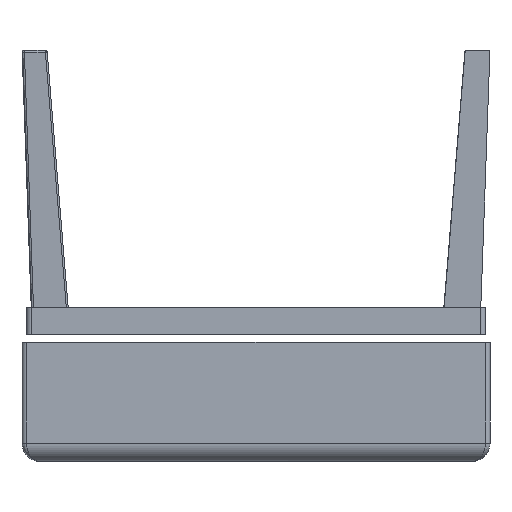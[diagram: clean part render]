
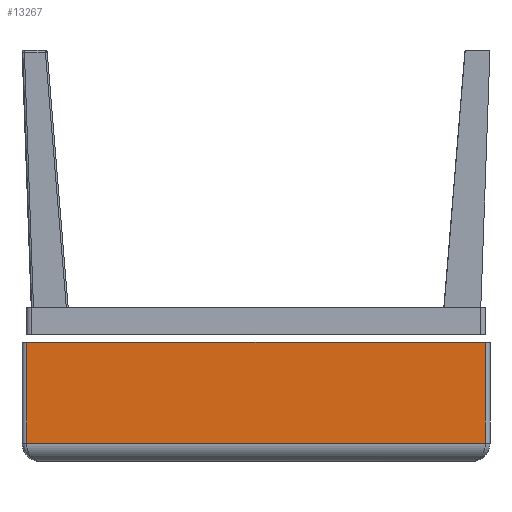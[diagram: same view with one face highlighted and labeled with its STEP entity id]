
A CAD part, front view. The second image highlights one B-rep face of the part: STEP entity #13267.
In plain terms, the highlighted planar face has unit normal (0, -1, 0).
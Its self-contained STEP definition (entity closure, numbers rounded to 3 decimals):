
#13254=AXIS2_PLACEMENT_3D('Plane Axis2P3D',#13251,#13252,#13253) ;
#12995=CARTESIAN_POINT('Vertex',(250.,-190.,-130.)) ;
#12998=CARTESIAN_POINT('Line Origine',(0.,-190.,-130.)) ;
#13002=CARTESIAN_POINT('Vertex',(-250.,-190.,-130.)) ;
#13069=CARTESIAN_POINT('Vertex',(-250.,-190.,-20.)) ;
#13072=CARTESIAN_POINT('Line Origine',(0.,-190.,-20.)) ;
#13076=CARTESIAN_POINT('Vertex',(250.,-190.,-20.)) ;
#13237=CARTESIAN_POINT('Line Origine',(250.,-190.,-20.)) ;
#13251=CARTESIAN_POINT('Axis2P3D Location',(255.,-190.,-20.)) ;
#13256=CARTESIAN_POINT('Line Origine',(-250.,-190.,-75.)) ;
#12999=DIRECTION('Vector Direction',(-1.,0.,0.)) ;
#13073=DIRECTION('Vector Direction',(1.,0.,0.)) ;
#13238=DIRECTION('Vector Direction',(0.,0.,-1.)) ;
#13252=DIRECTION('Axis2P3D Direction',(0.,-1.,0.)) ;
#13253=DIRECTION('Axis2P3D XDirection',(-1.,0.,0.)) ;
#13257=DIRECTION('Vector Direction',(0.,0.,1.)) ;
#13000=VECTOR('Line Direction',#12999,1.) ;
#13074=VECTOR('Line Direction',#13073,1.) ;
#13239=VECTOR('Line Direction',#13238,1.) ;
#13258=VECTOR('Line Direction',#13257,1.) ;
#13262=ORIENTED_EDGE('',*,*,#13260,.F.) ;
#13263=ORIENTED_EDGE('',*,*,#13004,.F.) ;
#13264=ORIENTED_EDGE('',*,*,#13241,.F.) ;
#13265=ORIENTED_EDGE('',*,*,#13078,.F.) ;
#13267=ADVANCED_FACE('WING-S3-102-a_1\\Volumenk\X2\00F6\X0\rper5',(#13266),#13255,.T.) ;
#13004=EDGE_CURVE('',#12996,#13003,#13001,.T.) ;
#13078=EDGE_CURVE('',#13070,#13077,#13075,.T.) ;
#13241=EDGE_CURVE('',#13077,#12996,#13240,.T.) ;
#13260=EDGE_CURVE('',#13003,#13070,#13259,.T.) ;
#13261=EDGE_LOOP('',(#13262,#13263,#13264,#13265)) ;
#13266=FACE_OUTER_BOUND('',#13261,.T.) ;
#13001=LINE('Line',#12998,#13000) ;
#13075=LINE('Line',#13072,#13074) ;
#13240=LINE('Line',#13237,#13239) ;
#13259=LINE('Line',#13256,#13258) ;
#13255=PLANE('',#13254) ;
#12996=VERTEX_POINT('',#12995) ;
#13003=VERTEX_POINT('',#13002) ;
#13070=VERTEX_POINT('',#13069) ;
#13077=VERTEX_POINT('',#13076) ;
